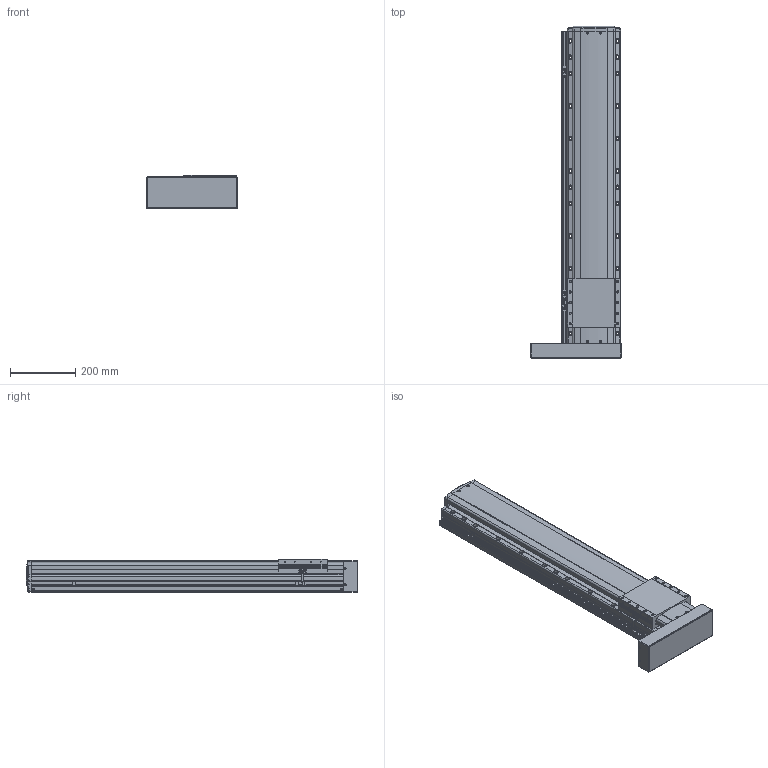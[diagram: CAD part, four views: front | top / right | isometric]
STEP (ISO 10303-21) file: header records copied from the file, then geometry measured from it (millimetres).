
FILE_DESCRIPTION(('STEP AP214'),'1');
FILE_NAME('Z:/Web/3D/PSA165/STP/PSA165-700 (3D)/PSA165ㅁㅁ-700PL+3SL.stp','2014-06-23T11:36:41',(' '),(' '),'Spatial InterOp 3D',' ',' ');
FILE_SCHEMA(('automotive_design'));
Length unit declared in the file: millimetre
Products named in the file (41): 스크루 : Round - M4.0 x 12.0; RRCV-PA160; BASE; 스크루 : Round - M4.0 x 10.0; RN15; Screw 20; SLIDE; FRCV; MTPL; 스크루 : Round - M3.0 x 6.0; M3.0 x 6.0; SRL-16x17-360L; SGD-SAN150; EE-SX674; SBK-SX674-352; BHCS M4.0 x 10.0
Bounding box: 281.93 x 1020.8 x 104 mm (x, y, z)
Volume: 14771919.1 mm3; surface area: 1064466.7 mm2
Topology: 41 solids, 41 shells, 2536 faces, 6793 edges, 4361 vertices
Faces by surface type: plane 1451, cylinder 763, cone 217, sphere 64, bspline 25, torus 16
Entity records: 102853 total; most frequent: CARTESIAN_POINT 17773, DIRECTION 13531, ORIENTED_EDGE 13294, EDGE_CURVE 6647, AXIS2_PLACEMENT_3D 4533, LINE 4465, VECTOR 4465, VERTEX_POINT 4361
